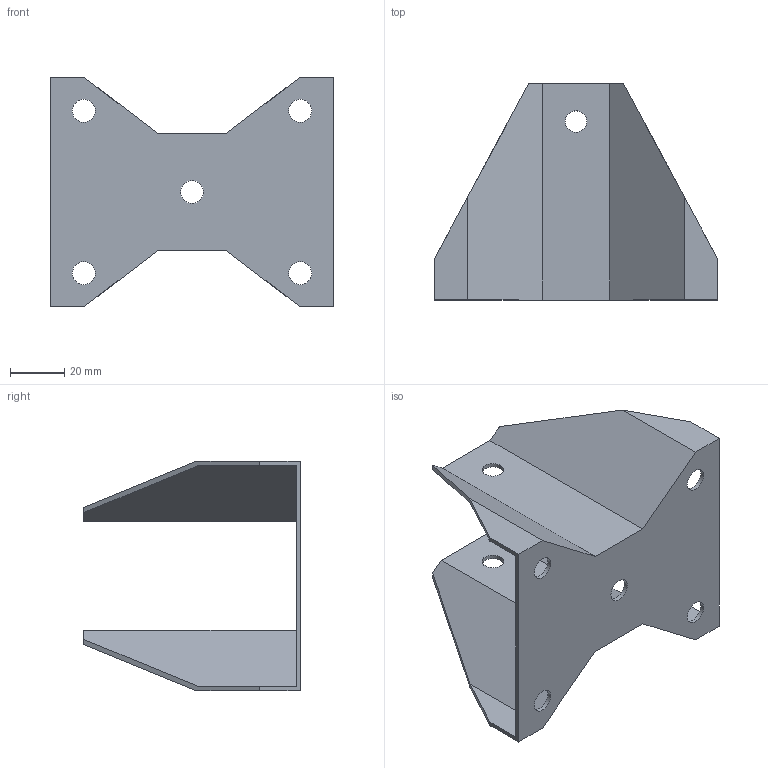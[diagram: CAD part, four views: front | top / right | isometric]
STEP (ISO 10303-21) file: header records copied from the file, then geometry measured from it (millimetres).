
FILE_DESCRIPTION((''),'2;1');
FILE_NAME('RUF080N_2','2002-12-27T',('Lipro doo'),('Lipro d.o.o.'),'PRO/ENGINEER BY PARAMETRIC TECHNOLOGY CORPORATION, 2001150','PRO/ENGINEER BY PARAMETRIC TECHNOLOGY CORPORATION, 2001150','');
FILE_SCHEMA(('CONFIG_CONTROL_DESIGN'));
Length unit declared in the file: millimetre
Products named in the file (1): RUF080N_2
Bounding box: 105 x 80 x 85 mm (x, y, z)
Volume: 30005.9 mm3; surface area: 41249.2 mm2
Topology: 1 solids, 1 shells, 44 faces, 126 edges, 84 vertices
Faces by surface type: plane 30, cylinder 14
Entity records: 1504 total; most frequent: CARTESIAN_POINT 254, ORIENTED_EDGE 252, DIRECTION 242, EDGE_CURVE 126, VECTOR 98, LINE 98, VERTEX_POINT 84, AXIS2_PLACEMENT_3D 72
